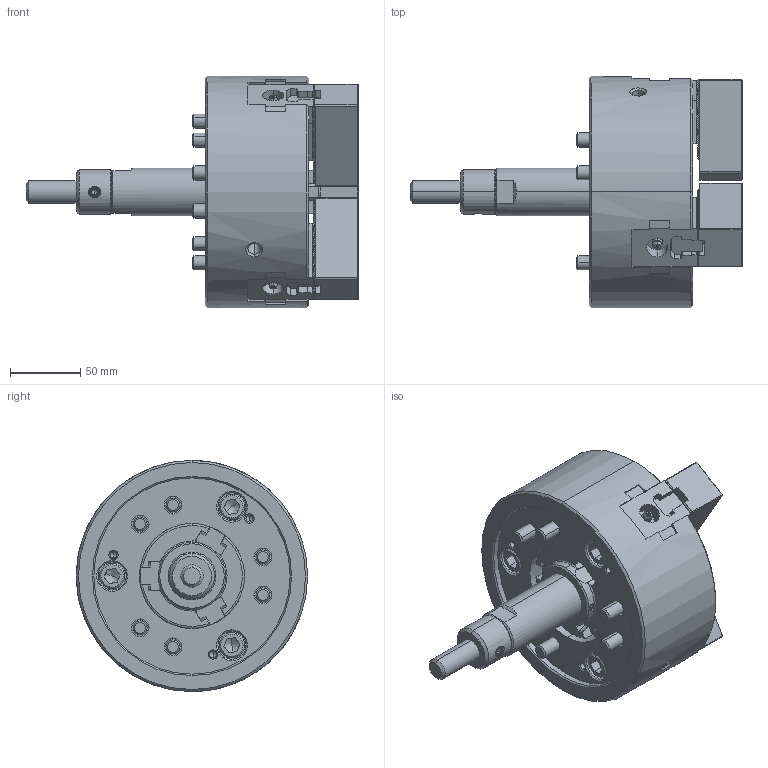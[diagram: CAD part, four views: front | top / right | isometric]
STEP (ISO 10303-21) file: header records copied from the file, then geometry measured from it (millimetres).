
FILE_DESCRIPTION (( 'STEP AP214' ), '1' );
FILE_NAME ('DT1_N-06_OUTSIDE_VIEW_HOL.STEP', '2026-03-13T02:49:54', ( '' ), ( '' ), 'SwSTEP 2.0', 'SolidWorks 2022', '' );
FILE_SCHEMA (( 'AUTOMOTIVE_DESIGN' ));
Length unit declared in the file: millimetre
Products named in the file (11): DT1_N-06_COVER^DT1_N-06; Copy of P31410^DT1_N-06; DT1_N-06_DN^DT1_N-06; DT1_N-06_DRAWSCREW^DT1_N-06; DT1_N-06_TNUT^DT1_N-06; DT1_N-06_M10x70^DT1_N-06; DT1_N-06_M10x30^DT1_N-06; DT1_N-06_M5x12^DT1_N-06; DT1_N-06_SOFTJAW^DT1_N-06; DT1_N-06_BASE^DT1_N-06; DT1_N-06_OUTSIDE_VIEW_HOL
Assembly tree (26 placements, depth 2):
  DT1_N-06_OUTSIDE_VIEW_HOL
    DT1_N-06_SOFTJAW^DT1_N-06  x3
    DT1_N-06_TNUT^DT1_N-06  x3
    DT1_N-06_COVER^DT1_N-06
    DT1_N-06_DRAWSCREW^DT1_N-06
    Copy of P31410^DT1_N-06
    DT1_N-06_DN^DT1_N-06
    DT1_N-06_BASE^DT1_N-06
    DT1_N-06_M5x12^DT1_N-06  x3
    DT1_N-06_M10x30^DT1_N-06  x6
    DT1_N-06_M10x70^DT1_N-06  x6
Bounding box: 236.85 x 165 x 165 mm (x, y, z)
Volume: 1683570.2 mm3; surface area: 268414.4 mm2
Topology: 26 solids, 26 shells, 3686 faces, 10306 edges, 6718 vertices
Faces by surface type: plane 2162, cylinder 971, cone 356, bspline 133, torus 58, sphere 6
Entity records: 88479 total; most frequent: CARTESIAN_POINT 26419, ORIENTED_EDGE 13968, DIRECTION 11190, EDGE_CURVE 6984, LINE 4784, VECTOR 4784, VERTEX_POINT 4566, AXIS2_PLACEMENT_3D 3203
